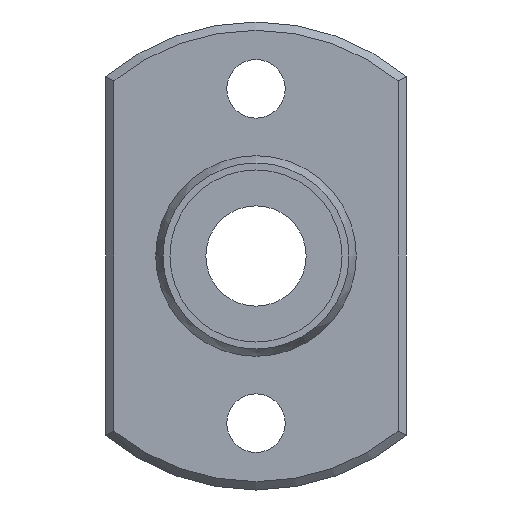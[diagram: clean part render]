
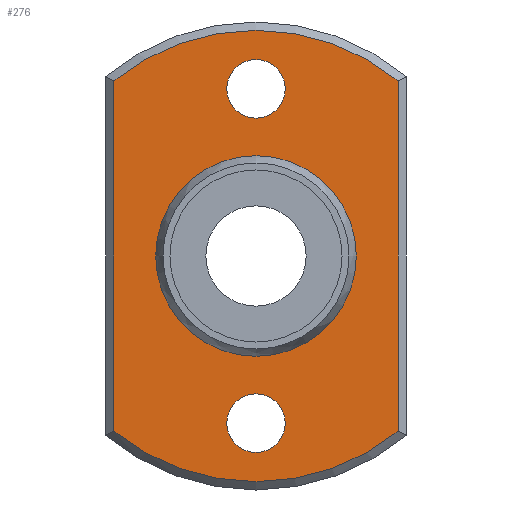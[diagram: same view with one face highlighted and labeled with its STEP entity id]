
A CAD part, left-side view. The second image highlights one B-rep face of the part: STEP entity #276.
In plain terms, the highlighted planar face has unit normal (-1, 0, 0).
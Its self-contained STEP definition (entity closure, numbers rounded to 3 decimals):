
#59=CARTESIAN_POINT('',(5.,8.5,-10.488));
#60=VERTEX_POINT('',#59);
#68=CARTESIAN_POINT('',(5.,8.5,10.488));
#69=VERTEX_POINT('',#68);
#70=CARTESIAN_POINT('',(5.,8.5,-10.488));
#71=DIRECTION('',(0.0,0.0,1.0));
#72=VECTOR('',#71,20.976);
#73=LINE('',#70,#72);
#74=EDGE_CURVE('',#60,#69,#73,.T.);
#101=CARTESIAN_POINT('',(5.,-8.5,10.488));
#102=VERTEX_POINT('',#101);
#103=CARTESIAN_POINT('',(5.,0.0,0.0));
#104=DIRECTION('',(1.0,0.0,0.0));
#105=DIRECTION('',(0.0,0.0,1.0));
#106=AXIS2_PLACEMENT_3D('',#103,#104,#105);
#107=CIRCLE('',#106,13.5);
#108=EDGE_CURVE('',#69,#102,#107,.T.);
#134=CARTESIAN_POINT('',(5.,-8.5,-10.488));
#135=VERTEX_POINT('',#134);
#136=CARTESIAN_POINT('',(5.,-8.5,10.488));
#137=DIRECTION('',(0.0,0.0,-1.0));
#138=VECTOR('',#137,20.976);
#139=LINE('',#136,#138);
#140=EDGE_CURVE('',#102,#135,#139,.T.);
#165=CARTESIAN_POINT('',(5.,0.0,0.0));
#166=DIRECTION('',(1.0,0.0,0.0));
#167=DIRECTION('',(0.0,0.0,-1.0));
#168=AXIS2_PLACEMENT_3D('',#165,#166,#167);
#169=CIRCLE('',#168,13.5);
#170=EDGE_CURVE('',#135,#60,#169,.T.);
#232=CARTESIAN_POINT('',(5.,0.0,9.905));
#233=DIRECTION('',(-1.0,0.0,0.0));
#234=DIRECTION('',(0.0,0.0,1.0));
#235=AXIS2_PLACEMENT_3D('',#232,#233,#234);
#236=PLANE('',#235);
#237=ORIENTED_EDGE('',*,*,#74,.F.);
#238=ORIENTED_EDGE('',*,*,#170,.F.);
#239=ORIENTED_EDGE('',*,*,#140,.F.);
#240=ORIENTED_EDGE('',*,*,#108,.F.);
#241=EDGE_LOOP('',(#237,#238,#239,#240));
#242=FACE_OUTER_BOUND('',#241,.T.);
#243=CARTESIAN_POINT('',(5.0,0.0,5.809));
#244=VERTEX_POINT('',#243);
#245=CARTESIAN_POINT('',(5.0,0.0,0.0));
#246=DIRECTION('',(-1.0,0.0,0.0));
#247=DIRECTION('',(0.0,0.0,1.0));
#248=AXIS2_PLACEMENT_3D('',#245,#246,#247);
#249=CIRCLE('',#248,5.809);
#250=EDGE_CURVE('',#244,#244,#249,.T.);
#251=ORIENTED_EDGE('',*,*,#250,.F.);
#252=EDGE_LOOP('',(#251));
#253=FACE_BOUND('',#252,.T.);
#254=CARTESIAN_POINT('',(5.,-1.75,-10.0));
#255=VERTEX_POINT('',#254);
#256=CARTESIAN_POINT('',(5.,0.,-10.0));
#257=DIRECTION('',(1.0,0.0,0.0));
#258=DIRECTION('',(0.0,1.0,0.0));
#259=AXIS2_PLACEMENT_3D('',#256,#257,#258);
#260=CIRCLE('',#259,1.75);
#261=EDGE_CURVE('',#255,#255,#260,.T.);
#262=ORIENTED_EDGE('',*,*,#261,.T.);
#263=EDGE_LOOP('',(#262));
#264=FACE_BOUND('',#263,.T.);
#265=CARTESIAN_POINT('',(5.,-1.75,10.0));
#266=VERTEX_POINT('',#265);
#267=CARTESIAN_POINT('',(5.,0.,10.0));
#268=DIRECTION('',(1.0,0.0,0.0));
#269=DIRECTION('',(0.0,1.0,0.0));
#270=AXIS2_PLACEMENT_3D('',#267,#268,#269);
#271=CIRCLE('',#270,1.75);
#272=EDGE_CURVE('',#266,#266,#271,.T.);
#273=ORIENTED_EDGE('',*,*,#272,.T.);
#274=EDGE_LOOP('',(#273));
#275=FACE_BOUND('',#274,.T.);
#276=ADVANCED_FACE('',(#242,#253,#264,#275),#236,.T.);
